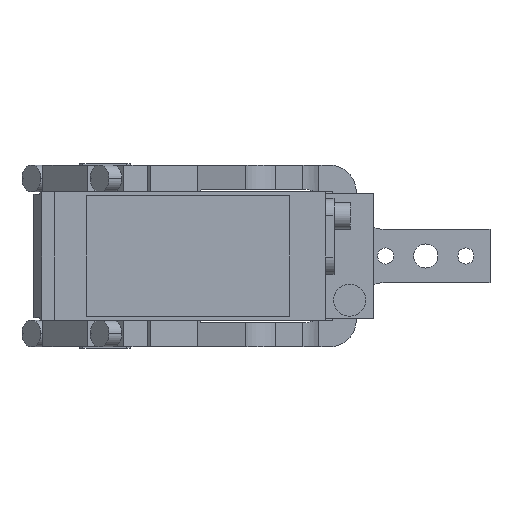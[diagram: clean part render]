
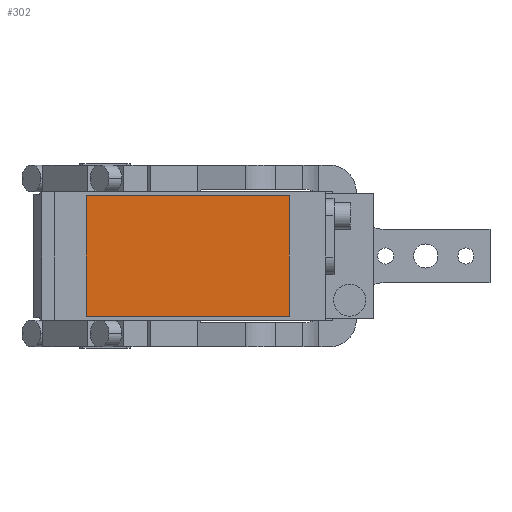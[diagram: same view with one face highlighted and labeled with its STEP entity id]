
A CAD part, front view. The second image highlights one B-rep face of the part: STEP entity #302.
In plain terms, the highlighted planar face has unit normal (0, -1, 0).
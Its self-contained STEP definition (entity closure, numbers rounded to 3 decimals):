
#302 = ADVANCED_FACE ( 'NONE', ( #7162 ), #13434, .T. ) ;
#491 = CARTESIAN_POINT ( 'NONE',  ( -7., -280.5, 22.5 ) ) ;
#580 = VERTEX_POINT ( 'NONE', #491 ) ;
#1605 = LINE ( 'NONE', #11310, #12664 ) ;
#1972 = ORIENTED_EDGE ( 'NONE', *, *, #3352, .T. ) ;
#2025 = DIRECTION ( 'NONE',  ( -1., 0., 0. ) ) ;
#2285 = VECTOR ( 'NONE', #7356, 1000. ) ;
#2506 = EDGE_LOOP ( 'NONE', ( #12406, #1972, #11096, #5597 ) ) ;
#3352 = EDGE_CURVE ( 'NONE', #5163, #6953, #6006, .T. ) ;
#3944 = EDGE_CURVE ( 'NONE', #7946, #580, #9267, .T. ) ;
#4026 = DIRECTION ( 'NONE',  ( 1., 0., 0. ) ) ;
#5163 = VERTEX_POINT ( 'NONE', #5926 ) ;
#5597 = ORIENTED_EDGE ( 'NONE', *, *, #3944, .T. ) ;
#5926 = CARTESIAN_POINT ( 'NONE',  ( -7., -280.5, -22.5 ) ) ;
#6006 = LINE ( 'NONE', #10452, #12124 ) ;
#6953 = VERTEX_POINT ( 'NONE', #13089 ) ;
#7162 = FACE_OUTER_BOUND ( 'NONE', #2506, .T. ) ;
#7343 = AXIS2_PLACEMENT_3D ( 'NONE', #10198, #12374, #11469 ) ;
#7356 = DIRECTION ( 'NONE',  ( 0., 0., 1. ) ) ;
#7421 = CARTESIAN_POINT ( 'NONE',  ( -7., -280.5, 22.5 ) ) ;
#7946 = VERTEX_POINT ( 'NONE', #13094 ) ;
#8781 = EDGE_CURVE ( 'NONE', #6953, #7946, #8974, .T. ) ;
#8974 = LINE ( 'NONE', #13263, #2285 ) ;
#9267 = LINE ( 'NONE', #7421, #13104 ) ;
#9632 = EDGE_CURVE ( 'NONE', #580, #5163, #1605, .T. ) ;
#10125 = DIRECTION ( 'NONE',  ( 0., 0., -1. ) ) ;
#10198 = CARTESIAN_POINT ( 'NONE',  ( 0., -280.5, 0. ) ) ;
#10452 = CARTESIAN_POINT ( 'NONE',  ( -7., -280.5, -22.5 ) ) ;
#11096 = ORIENTED_EDGE ( 'NONE', *, *, #8781, .T. ) ;
#11310 = CARTESIAN_POINT ( 'NONE',  ( -7., -280.5, 22.5 ) ) ;
#11469 = DIRECTION ( 'NONE',  ( 0., 0., -1. ) ) ;
#12124 = VECTOR ( 'NONE', #4026, 1000. ) ;
#12374 = DIRECTION ( 'NONE',  ( 0., -1., 0. ) ) ;
#12406 = ORIENTED_EDGE ( 'NONE', *, *, #9632, .T. ) ;
#12664 = VECTOR ( 'NONE', #10125, 1000. ) ;
#13089 = CARTESIAN_POINT ( 'NONE',  ( 69., -280.5, -22.5 ) ) ;
#13094 = CARTESIAN_POINT ( 'NONE',  ( 69., -280.5, 22.5 ) ) ;
#13104 = VECTOR ( 'NONE', #2025, 1000. ) ;
#13263 = CARTESIAN_POINT ( 'NONE',  ( 69., -280.5, 22.5 ) ) ;
#13434 = PLANE ( 'NONE',  #7343 ) ;
